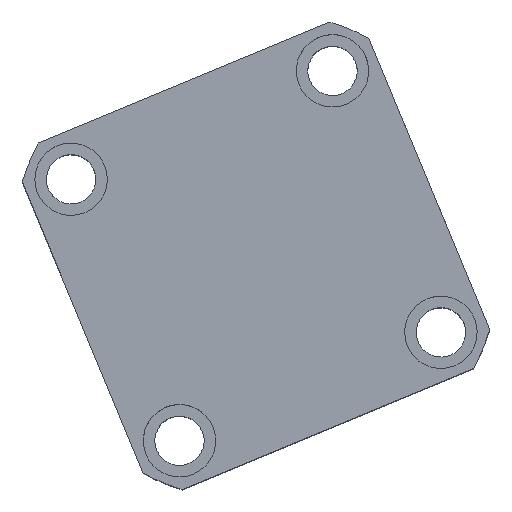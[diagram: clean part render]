
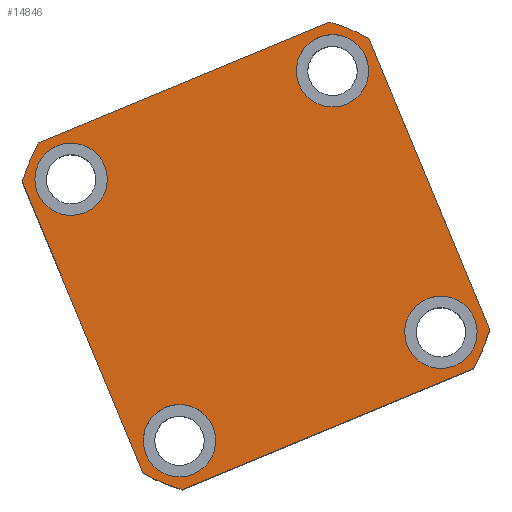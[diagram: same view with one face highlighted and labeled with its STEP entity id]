
A CAD part, top view. The second image highlights one B-rep face of the part: STEP entity #14846.
In plain terms, the highlighted planar face has unit normal (0, 0, 1) as drawn and (0, 0, -1) by its records, which use the part's own axes.
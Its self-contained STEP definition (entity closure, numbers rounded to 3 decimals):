
#83 = ORIENTED_EDGE ( 'NONE', *, *, #14940, .F. ) ;
#98 = DIRECTION ( 'NONE',  ( 1., 0., 0. ) ) ;
#127 = CARTESIAN_POINT ( 'NONE',  ( 32., -43., 0. ) ) ;
#187 = CIRCLE ( 'NONE', #1591, 11. ) ;
#349 = AXIS2_PLACEMENT_3D ( 'NONE', #6139, #14409, #7358 ) ;
#365 = VECTOR ( 'NONE', #98, 1000. ) ;
#647 = EDGE_CURVE ( 'NONE', #7663, #732, #1123, .T. ) ;
#732 = VERTEX_POINT ( 'NONE', #14959 ) ;
#822 = AXIS2_PLACEMENT_3D ( 'NONE', #4139, #12398, #5298 ) ;
#1074 = EDGE_CURVE ( 'NONE', #12233, #1169, #6601, .T. ) ;
#1123 = CIRCLE ( 'NONE', #13155, 11. ) ;
#1169 = VERTEX_POINT ( 'NONE', #14387 ) ;
#1591 = AXIS2_PLACEMENT_3D ( 'NONE', #5198, #13469, #6368 ) ;
#1656 = EDGE_CURVE ( 'NONE', #4035, #5480, #8640, .T. ) ;
#1749 = FACE_BOUND ( 'NONE', #5329, .T. ) ;
#1890 = ORIENTED_EDGE ( 'NONE', *, *, #6709, .F. ) ;
#1902 = LINE ( 'NONE', #12541, #4650 ) ;
#1914 = EDGE_CURVE ( 'NONE', #10147, #10709, #6403, .T. ) ;
#1991 = DIRECTION ( 'NONE',  ( 0., 0., 1. ) ) ;
#2005 = CARTESIAN_POINT ( 'NONE',  ( -54., 43., 0. ) ) ;
#2201 = CIRCLE ( 'NONE', #7161, 74.5 ) ;
#2262 = DIRECTION ( 'NONE',  ( 0., -1., 0. ) ) ;
#2299 = CARTESIAN_POINT ( 'NONE',  ( -47.971, 57., 0. ) ) ;
#2385 = EDGE_CURVE ( 'NONE', #8489, #13092, #3117, .T. ) ;
#2389 = VERTEX_POINT ( 'NONE', #2631 ) ;
#2437 = CARTESIAN_POINT ( 'NONE',  ( 0., 0., 0. ) ) ;
#2631 = CARTESIAN_POINT ( 'NONE',  ( 54., 43., 0. ) ) ;
#2928 = CIRCLE ( 'NONE', #822, 11. ) ;
#3117 = CIRCLE ( 'NONE', #349, 11. ) ;
#3349 = ORIENTED_EDGE ( 'NONE', *, *, #12447, .F. ) ;
#3536 = DIRECTION ( 'NONE',  ( 0., 0., -1. ) ) ;
#3568 = ORIENTED_EDGE ( 'NONE', *, *, #2385, .F. ) ;
#3580 = EDGE_CURVE ( 'NONE', #1169, #14906, #2201, .T. ) ;
#3616 = DIRECTION ( 'NONE',  ( 1., 0., 0. ) ) ;
#3744 = ORIENTED_EDGE ( 'NONE', *, *, #12878, .F. ) ;
#3857 = CARTESIAN_POINT ( 'NONE',  ( 54., -43., 0. ) ) ;
#4035 = VERTEX_POINT ( 'NONE', #2005 ) ;
#4093 = DIRECTION ( 'NONE',  ( 0., 0., -1. ) ) ;
#4134 = CIRCLE ( 'NONE', #10892, 11. ) ;
#4139 = CARTESIAN_POINT ( 'NONE',  ( -43., 43., 0. ) ) ;
#4149 = AXIS2_PLACEMENT_3D ( 'NONE', #12203, #5107, #13381 ) ;
#4302 = CARTESIAN_POINT ( 'NONE',  ( 57., 47.971, 0. ) ) ;
#4377 = CARTESIAN_POINT ( 'NONE',  ( 43., 43., 0. ) ) ;
#4508 = FACE_OUTER_BOUND ( 'NONE', #10104, .T. ) ;
#4572 = DIRECTION ( 'NONE',  ( 0., 1., 0. ) ) ;
#4577 = LINE ( 'NONE', #12840, #10865 ) ;
#4650 = VECTOR ( 'NONE', #10169, 1000. ) ;
#4744 = CARTESIAN_POINT ( 'NONE',  ( -57., -57., 0. ) ) ;
#4857 = AXIS2_PLACEMENT_3D ( 'NONE', #13210, #13258, #6156 ) ;
#4933 = CARTESIAN_POINT ( 'NONE',  ( 0., 0., 0. ) ) ;
#4954 = CARTESIAN_POINT ( 'NONE',  ( 0., 0., 0. ) ) ;
#5107 = DIRECTION ( 'NONE',  ( 0., 0., -1. ) ) ;
#5189 = ORIENTED_EDGE ( 'NONE', *, *, #10838, .F. ) ;
#5198 = CARTESIAN_POINT ( 'NONE',  ( -43., -43., 0. ) ) ;
#5277 = CIRCLE ( 'NONE', #6202, 74.5 ) ;
#5281 = DIRECTION ( 'NONE',  ( 0., 0., -1. ) ) ;
#5298 = DIRECTION ( 'NONE',  ( -1., 0., 0. ) ) ;
#5329 = EDGE_LOOP ( 'NONE', ( #3568, #83 ) ) ;
#5480 = VERTEX_POINT ( 'NONE', #11044 ) ;
#5546 = DIRECTION ( 'NONE',  ( -1., 0., 0. ) ) ;
#6097 = VECTOR ( 'NONE', #2262, 1000. ) ;
#6101 = ORIENTED_EDGE ( 'NONE', *, *, #1074, .F. ) ;
#6102 = DIRECTION ( 'NONE',  ( 1., 0., 0. ) ) ;
#6121 = DIRECTION ( 'NONE',  ( 1., 0., 0. ) ) ;
#6139 = CARTESIAN_POINT ( 'NONE',  ( 43., -43., 0. ) ) ;
#6156 = DIRECTION ( 'NONE',  ( 1., 0., 0. ) ) ;
#6202 = AXIS2_PLACEMENT_3D ( 'NONE', #2437, #10681, #3616 ) ;
#6368 = DIRECTION ( 'NONE',  ( -1., 0., 0. ) ) ;
#6401 = EDGE_CURVE ( 'NONE', #13658, #12233, #13896, .T. ) ;
#6403 = CIRCLE ( 'NONE', #12857, 74.5 ) ;
#6494 = AXIS2_PLACEMENT_3D ( 'NONE', #10598, #3536, #11779 ) ;
#6601 = LINE ( 'NONE', #4744, #365 ) ;
#6709 = EDGE_CURVE ( 'NONE', #11396, #10147, #1902, .T. ) ;
#6900 = ORIENTED_EDGE ( 'NONE', *, *, #12478, .F. ) ;
#7015 = CIRCLE ( 'NONE', #4149, 11. ) ;
#7161 = AXIS2_PLACEMENT_3D ( 'NONE', #9025, #1991, #10235 ) ;
#7242 = EDGE_CURVE ( 'NONE', #10709, #13658, #11666, .T. ) ;
#7270 = CARTESIAN_POINT ( 'NONE',  ( 47.971, 57., 0. ) ) ;
#7358 = DIRECTION ( 'NONE',  ( -1., 0., 0. ) ) ;
#7633 = FACE_BOUND ( 'NONE', #12199, .T. ) ;
#7663 = VERTEX_POINT ( 'NONE', #13723 ) ;
#8466 = CIRCLE ( 'NONE', #10397, 11. ) ;
#8489 = VERTEX_POINT ( 'NONE', #127 ) ;
#8640 = CIRCLE ( 'NONE', #6494, 11. ) ;
#8902 = EDGE_CURVE ( 'NONE', #11904, #2389, #7015, .T. ) ;
#9025 = CARTESIAN_POINT ( 'NONE',  ( 0., 0., 0. ) ) ;
#9074 = ORIENTED_EDGE ( 'NONE', *, *, #8902, .F. ) ;
#9408 = CARTESIAN_POINT ( 'NONE',  ( -57., 57., 0. ) ) ;
#9668 = CARTESIAN_POINT ( 'NONE',  ( -47.971, -57., 0. ) ) ;
#9829 = ORIENTED_EDGE ( 'NONE', *, *, #647, .F. ) ;
#9979 = EDGE_LOOP ( 'NONE', ( #9074, #5189 ) ) ;
#10104 = EDGE_LOOP ( 'NONE', ( #13513, #3744, #13935, #6101, #15156, #14779, #11552, #1890 ) ) ;
#10147 = VERTEX_POINT ( 'NONE', #2299 ) ;
#10169 = DIRECTION ( 'NONE',  ( -1., 0., 0. ) ) ;
#10235 = DIRECTION ( 'NONE',  ( 1., 0., 0. ) ) ;
#10298 = CARTESIAN_POINT ( 'NONE',  ( 32., 43., 0. ) ) ;
#10397 = AXIS2_PLACEMENT_3D ( 'NONE', #4377, #12641, #5546 ) ;
#10598 = CARTESIAN_POINT ( 'NONE',  ( -43., 43., 0. ) ) ;
#10608 = CARTESIAN_POINT ( 'NONE',  ( -57., -47.971, 0. ) ) ;
#10681 = DIRECTION ( 'NONE',  ( 0., 0., 1. ) ) ;
#10709 = VERTEX_POINT ( 'NONE', #12383 ) ;
#10798 = FACE_BOUND ( 'NONE', #9979, .T. ) ;
#10802 = PLANE ( 'NONE',  #4857 ) ;
#10838 = EDGE_CURVE ( 'NONE', #2389, #11904, #8466, .T. ) ;
#10865 = VECTOR ( 'NONE', #4572, 1000. ) ;
#10892 = AXIS2_PLACEMENT_3D ( 'NONE', #12382, #5281, #13558 ) ;
#10944 = CARTESIAN_POINT ( 'NONE',  ( 57., -47.971, 0. ) ) ;
#10971 = AXIS2_PLACEMENT_3D ( 'NONE', #4954, #13221, #6121 ) ;
#11044 = CARTESIAN_POINT ( 'NONE',  ( -32., 43., 0. ) ) ;
#11150 = FACE_BOUND ( 'NONE', #13255, .T. ) ;
#11160 = CARTESIAN_POINT ( 'NONE',  ( -43., -43., 0. ) ) ;
#11396 = VERTEX_POINT ( 'NONE', #7270 ) ;
#11552 = ORIENTED_EDGE ( 'NONE', *, *, #1914, .F. ) ;
#11666 = LINE ( 'NONE', #9408, #6097 ) ;
#11779 = DIRECTION ( 'NONE',  ( -1., 0., 0. ) ) ;
#11904 = VERTEX_POINT ( 'NONE', #10298 ) ;
#12199 = EDGE_LOOP ( 'NONE', ( #14250, #6900 ) ) ;
#12203 = CARTESIAN_POINT ( 'NONE',  ( 43., 43., 0. ) ) ;
#12233 = VERTEX_POINT ( 'NONE', #9668 ) ;
#12345 = DIRECTION ( 'NONE',  ( -1., 0., 0. ) ) ;
#12382 = CARTESIAN_POINT ( 'NONE',  ( 43., -43., 0. ) ) ;
#12383 = CARTESIAN_POINT ( 'NONE',  ( -57., 47.971, 0. ) ) ;
#12398 = DIRECTION ( 'NONE',  ( 0., 0., -1. ) ) ;
#12447 = EDGE_CURVE ( 'NONE', #732, #7663, #187, .T. ) ;
#12478 = EDGE_CURVE ( 'NONE', #5480, #4035, #2928, .T. ) ;
#12541 = CARTESIAN_POINT ( 'NONE',  ( -57., 57., 0. ) ) ;
#12641 = DIRECTION ( 'NONE',  ( 0., 0., -1. ) ) ;
#12840 = CARTESIAN_POINT ( 'NONE',  ( 57., 57., 0. ) ) ;
#12857 = AXIS2_PLACEMENT_3D ( 'NONE', #4933, #13202, #6102 ) ;
#12878 = EDGE_CURVE ( 'NONE', #14906, #13476, #4577, .T. ) ;
#13092 = VERTEX_POINT ( 'NONE', #3857 ) ;
#13155 = AXIS2_PLACEMENT_3D ( 'NONE', #11160, #4093, #12345 ) ;
#13202 = DIRECTION ( 'NONE',  ( 0., 0., 1. ) ) ;
#13210 = CARTESIAN_POINT ( 'NONE',  ( 0., 0., 0. ) ) ;
#13221 = DIRECTION ( 'NONE',  ( 0., 0., 1. ) ) ;
#13255 = EDGE_LOOP ( 'NONE', ( #3349, #9829 ) ) ;
#13258 = DIRECTION ( 'NONE',  ( 0., 0., 1. ) ) ;
#13381 = DIRECTION ( 'NONE',  ( -1., 0., 0. ) ) ;
#13469 = DIRECTION ( 'NONE',  ( 0., 0., -1. ) ) ;
#13476 = VERTEX_POINT ( 'NONE', #4302 ) ;
#13513 = ORIENTED_EDGE ( 'NONE', *, *, #14236, .F. ) ;
#13558 = DIRECTION ( 'NONE',  ( -1., 0., 0. ) ) ;
#13658 = VERTEX_POINT ( 'NONE', #10608 ) ;
#13723 = CARTESIAN_POINT ( 'NONE',  ( -32., -43., 0. ) ) ;
#13896 = CIRCLE ( 'NONE', #10971, 74.5 ) ;
#13935 = ORIENTED_EDGE ( 'NONE', *, *, #3580, .F. ) ;
#14236 = EDGE_CURVE ( 'NONE', #13476, #11396, #5277, .T. ) ;
#14250 = ORIENTED_EDGE ( 'NONE', *, *, #1656, .F. ) ;
#14387 = CARTESIAN_POINT ( 'NONE',  ( 47.971, -57., 0. ) ) ;
#14409 = DIRECTION ( 'NONE',  ( 0., 0., -1. ) ) ;
#14779 = ORIENTED_EDGE ( 'NONE', *, *, #7242, .F. ) ;
#14846 = ADVANCED_FACE ( 'NONE', ( #11150, #1749, #10798, #7633, #4508 ), #10802, .F. ) ;
#14906 = VERTEX_POINT ( 'NONE', #10944 ) ;
#14940 = EDGE_CURVE ( 'NONE', #13092, #8489, #4134, .T. ) ;
#14959 = CARTESIAN_POINT ( 'NONE',  ( -54., -43., 0. ) ) ;
#15156 = ORIENTED_EDGE ( 'NONE', *, *, #6401, .F. ) ;
